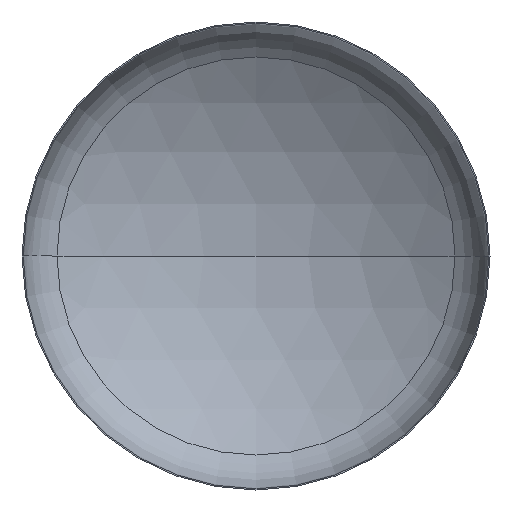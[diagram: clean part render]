
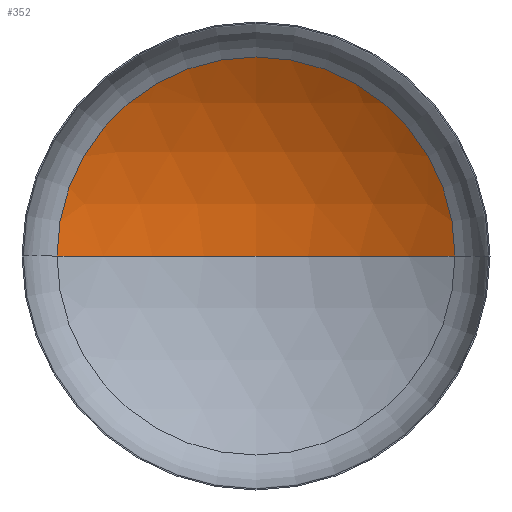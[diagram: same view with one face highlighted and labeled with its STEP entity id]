
A CAD part, front view. The second image highlights one B-rep face of the part: STEP entity #352.
In plain terms, the highlighted spherical face has radius 4800 mm.
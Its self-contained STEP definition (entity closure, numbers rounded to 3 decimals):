
#7 = SPHERICAL_SURFACE ( 'NONE', #125, 4800. ) ;
#11 = VERTEX_POINT ( 'NONE', #288 ) ;
#16 = AXIS2_PLACEMENT_3D ( 'NONE', #138, #134, #256 ) ;
#30 = ORIENTED_EDGE ( 'NONE', *, *, #117, .T. ) ;
#33 = CARTESIAN_POINT ( 'NONE',  ( 0., 828.463, 0. ) ) ;
#36 = ORIENTED_EDGE ( 'NONE', *, *, #324, .T. ) ;
#41 = VERTEX_POINT ( 'NONE', #354 ) ;
#78 = ORIENTED_EDGE ( 'NONE', *, *, #340, .F. ) ;
#81 = EDGE_LOOP ( 'NONE', ( #78, #36, #30 ) ) ;
#86 = VERTEX_POINT ( 'NONE', #213 ) ;
#117 = EDGE_CURVE ( 'NONE', #86, #11, #127, .T. ) ;
#125 = AXIS2_PLACEMENT_3D ( 'NONE', #364, #323, #287 ) ;
#127 = CIRCLE ( 'NONE', #378, 2551.742 ) ;
#134 = DIRECTION ( 'NONE',  ( 0., 0., 1. ) ) ;
#138 = CARTESIAN_POINT ( 'NONE',  ( 0., -3237.076, 0. ) ) ;
#146 = CIRCLE ( 'NONE', #16, 4800. ) ;
#152 = CIRCLE ( 'NONE', #372, 4800. ) ;
#213 = CARTESIAN_POINT ( 'NONE',  ( 2551.742, 828.463, 0. ) ) ;
#214 = FACE_OUTER_BOUND ( 'NONE', #81, .T. ) ;
#228 = CARTESIAN_POINT ( 'NONE',  ( 0., -3237.076, 0. ) ) ;
#256 = DIRECTION ( 'NONE',  ( 1., 0., 0. ) ) ;
#258 = DIRECTION ( 'NONE',  ( 1., 0., 0. ) ) ;
#261 = DIRECTION ( 'NONE',  ( 0., -1., 0. ) ) ;
#287 = DIRECTION ( 'NONE',  ( -1., 0., 0. ) ) ;
#288 = CARTESIAN_POINT ( 'NONE',  ( -2551.742, 828.463, 0. ) ) ;
#322 = DIRECTION ( 'NONE',  ( 0., 0., -1. ) ) ;
#323 = DIRECTION ( 'NONE',  ( 0., 0., -1. ) ) ;
#324 = EDGE_CURVE ( 'NONE', #41, #86, #152, .T. ) ;
#340 = EDGE_CURVE ( 'NONE', #41, #11, #146, .T. ) ;
#344 = DIRECTION ( 'NONE',  ( -1., 0., 0. ) ) ;
#352 = ADVANCED_FACE ( 'NONE', ( #214 ), #7, .F. ) ;
#354 = CARTESIAN_POINT ( 'NONE',  ( 0., 1562.924, 0. ) ) ;
#364 = CARTESIAN_POINT ( 'NONE',  ( 0., -3237.076, 0. ) ) ;
#372 = AXIS2_PLACEMENT_3D ( 'NONE', #228, #322, #344 ) ;
#378 = AXIS2_PLACEMENT_3D ( 'NONE', #33, #261, #258 ) ;
